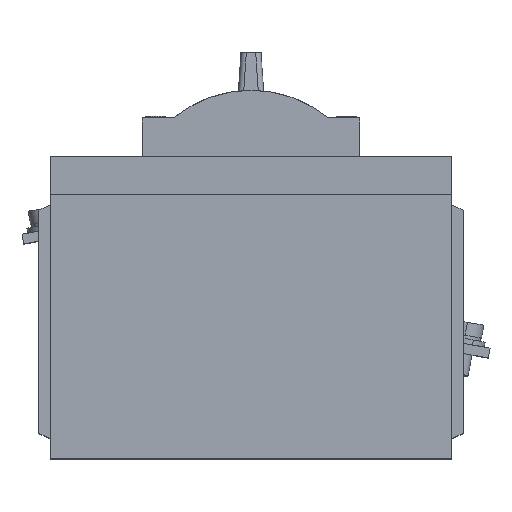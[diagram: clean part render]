
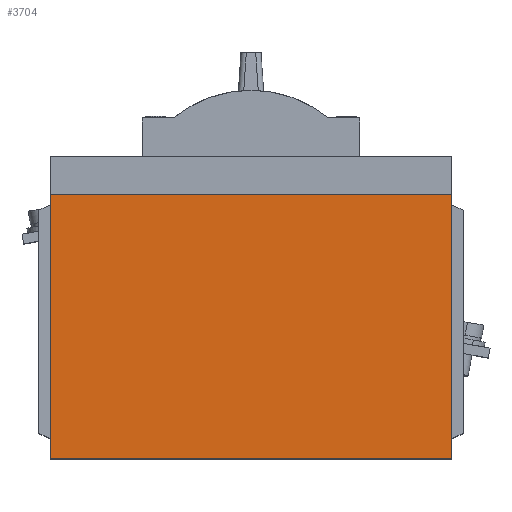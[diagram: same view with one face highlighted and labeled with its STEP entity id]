
A CAD part, top view. The second image highlights one B-rep face of the part: STEP entity #3704.
In plain terms, the highlighted planar face has unit normal (0, 0, 1).
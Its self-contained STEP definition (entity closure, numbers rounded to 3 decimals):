
#3594 = VERTEX_POINT ( 'NONE', #13088 ) ;
#3641 = EDGE_CURVE ( 'NONE', #3719, #3642, #13149, .T. ) ;
#3642 = VERTEX_POINT ( 'NONE', #13145 ) ;
#3672 = VERTEX_POINT ( 'NONE', #13036 ) ;
#3673 = ORIENTED_EDGE ( 'NONE', *, *, #3674, .F. ) ;
#3674 = EDGE_CURVE ( 'NONE', #3642, #3672, #13034, .T. ) ;
#3676 = ORIENTED_EDGE ( 'NONE', *, *, #3692, .F. ) ;
#3677 = ORIENTED_EDGE ( 'NONE', *, *, #3678, .F. ) ;
#3678 = EDGE_CURVE ( 'NONE', #3672, #3594, #13035, .T. ) ;
#3692 = EDGE_CURVE ( 'NONE', #3594, #3719, #13194, .T. ) ;
#3704 = ADVANCED_FACE ( 'NONE', ( #13175 ), #13174, .T. ) ;
#3705 = EDGE_LOOP ( 'NONE', ( #3706, #3676, #3677, #3673 ) ) ;
#3706 = ORIENTED_EDGE ( 'NONE', *, *, #3641, .F. ) ;
#3719 = VERTEX_POINT ( 'NONE', #13096 ) ;
#13004 = DIRECTION ( 'NONE',  ( -1., 0., 0. ) ) ;
#13005 = DIRECTION ( 'NONE',  ( 0., 0., 1. ) ) ;
#13006 = CARTESIAN_POINT ( 'NONE',  ( -49.42, 42.563, 51. ) ) ;
#13007 = AXIS2_PLACEMENT_3D ( 'NONE', #13006, #13005, #13004 ) ;
#13031 = DIRECTION ( 'NONE',  ( 1., 0., 0. ) ) ;
#13032 = VECTOR ( 'NONE', #13031, 1000. ) ;
#13033 = CARTESIAN_POINT ( 'NONE',  ( -49.42, 42.563, 51. ) ) ;
#13034 = LINE ( 'NONE', #13033, #13032 ) ;
#13035 = LINE ( 'NONE', #13144, #13143 ) ;
#13036 = CARTESIAN_POINT ( 'NONE',  ( 70.58, 42.563, 51. ) ) ;
#13088 = CARTESIAN_POINT ( 'NONE',  ( 70.58, -36.437, 51. ) ) ;
#13096 = CARTESIAN_POINT ( 'NONE',  ( -49.42, -36.437, 51. ) ) ;
#13142 = DIRECTION ( 'NONE',  ( 0., -1., 0. ) ) ;
#13143 = VECTOR ( 'NONE', #13142, 1000. ) ;
#13144 = CARTESIAN_POINT ( 'NONE',  ( 70.58, -36.437, 51. ) ) ;
#13145 = CARTESIAN_POINT ( 'NONE',  ( -49.42, 42.563, 51. ) ) ;
#13146 = DIRECTION ( 'NONE',  ( 0., 1., 0. ) ) ;
#13147 = VECTOR ( 'NONE', #13146, 1000. ) ;
#13148 = CARTESIAN_POINT ( 'NONE',  ( -49.42, -36.437, 51. ) ) ;
#13149 = LINE ( 'NONE', #13148, #13147 ) ;
#13174 = PLANE ( 'NONE',  #13007 ) ;
#13175 = FACE_OUTER_BOUND ( 'NONE', #3705, .T. ) ;
#13191 = DIRECTION ( 'NONE',  ( -1., 0., 0. ) ) ;
#13192 = VECTOR ( 'NONE', #13191, 1000. ) ;
#13193 = CARTESIAN_POINT ( 'NONE',  ( -49.42, -36.437, 51. ) ) ;
#13194 = LINE ( 'NONE', #13193, #13192 ) ;
